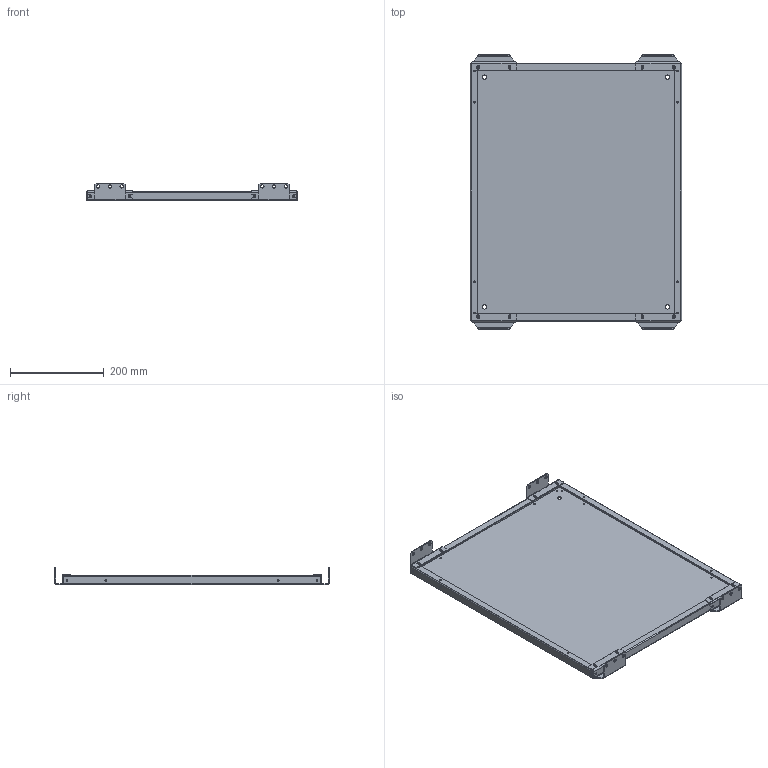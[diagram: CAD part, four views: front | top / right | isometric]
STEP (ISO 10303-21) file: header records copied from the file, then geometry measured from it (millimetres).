
FILE_DESCRIPTION (( 'STEP AP203' ), '1' );
FILE_NAME ('MP 45.55 M Ïàíåëü ìîíòàæíàÿ ñåêöèîííàÿ (ãîðèçîíòàëüíîå êðåïëåíèå).STEP', '2021-04-06T07:14:08', ( '' ), ( '' ), 'SwSTEP 2.0', 'SolidWorks 2018', '' );
FILE_SCHEMA (( 'CONFIG_CONTROL_DESIGN' ));
Length unit declared in the file: millimetre
Products named in the file (1): MP 45.55 M Ïàíåëü ìîíòàæíàÿ ñåêöèîííàÿ (ãîðèçîíòàëüíîå êðåïëåíèå)
Bounding box: 450 x 585 x 37.75 mm (x, y, z)
Volume: 664845.2 mm3; surface area: 673747.5 mm2
Topology: 5 solids, 5 shells, 388 faces, 1016 edges, 632 vertices
Faces by surface type: cylinder 196, plane 168, bspline 16, sphere 8
Entity records: 12713 total; most frequent: CARTESIAN_POINT 2749, DIRECTION 2050, ORIENTED_EDGE 2016, EDGE_CURVE 1008, AXIS2_PLACEMENT_3D 733, VERTEX_POINT 632, LINE 584, VECTOR 584
